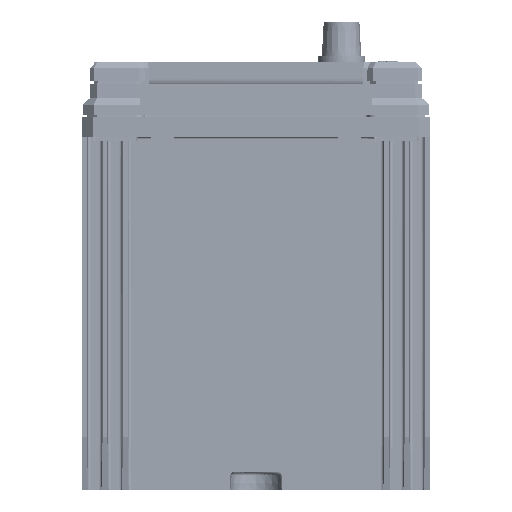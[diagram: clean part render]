
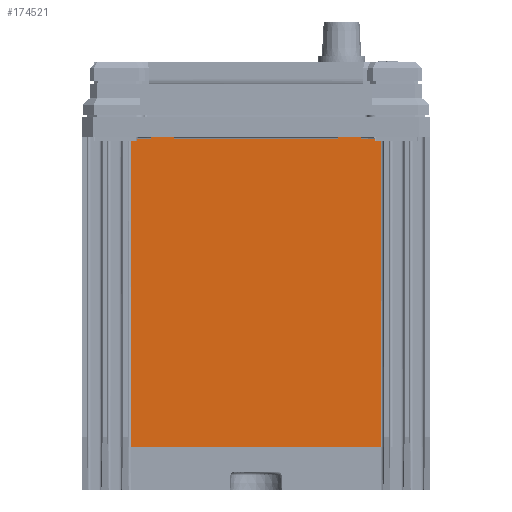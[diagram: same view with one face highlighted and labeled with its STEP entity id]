
A CAD part, left-side view. The second image highlights one B-rep face of the part: STEP entity #174521.
In plain terms, the highlighted planar face has unit normal (-1, 0, 0).
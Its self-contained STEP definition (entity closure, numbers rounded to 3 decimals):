
#170021=CARTESIAN_POINT('Line Origine',(-460.611,-196.31,16.05)) ;
#170025=CARTESIAN_POINT('Vertex',(-460.611,-201.81,16.05)) ;
#170027=CARTESIAN_POINT('Vertex',(-460.611,-190.81,16.05)) ;
#170831=CARTESIAN_POINT('Line Origine',(-460.611,-103.91,16.05)) ;
#170835=CARTESIAN_POINT('Vertex',(-460.611,-98.41,16.05)) ;
#170837=CARTESIAN_POINT('Vertex',(-460.611,-109.41,16.05)) ;
#174398=CARTESIAN_POINT('Axis2P3D Location',(-460.611,-146.11,-0.302)) ;
#174404=CARTESIAN_POINT('Control Point',(-460.611,-208.816,5.066)) ;
#174405=CARTESIAN_POINT('Control Point',(-460.611,-208.827,4.864)) ;
#174406=CARTESIAN_POINT('Control Point',(-460.611,-208.838,4.665)) ;
#174407=CARTESIAN_POINT('Control Point',(-460.611,-208.849,4.468)) ;
#174408=CARTESIAN_POINT('Control Point',(-460.611,-208.86,4.273)) ;
#174409=CARTESIAN_POINT('Control Point',(-460.611,-208.871,4.081)) ;
#174410=CARTESIAN_POINT('Vertex',(-460.611,-208.816,5.066)) ;
#174412=CARTESIAN_POINT('Vertex',(-460.611,-208.871,4.081)) ;
#174415=CARTESIAN_POINT('Line Origine',(-460.611,-205.313,5.066)) ;
#174419=CARTESIAN_POINT('Vertex',(-460.611,-201.81,5.066)) ;
#174422=CARTESIAN_POINT('Line Origine',(-460.611,-201.81,10.558)) ;
#174427=CARTESIAN_POINT('Line Origine',(-460.611,-190.81,10.558)) ;
#174431=CARTESIAN_POINT('Vertex',(-460.611,-190.81,5.066)) ;
#174434=CARTESIAN_POINT('Line Origine',(-460.611,-150.11,5.066)) ;
#174438=CARTESIAN_POINT('Vertex',(-460.611,-109.41,5.066)) ;
#174441=CARTESIAN_POINT('Line Origine',(-460.611,-109.41,10.558)) ;
#174446=CARTESIAN_POINT('Line Origine',(-460.611,-98.41,10.558)) ;
#174450=CARTESIAN_POINT('Vertex',(-460.611,-98.41,5.066)) ;
#174453=CARTESIAN_POINT('Line Origine',(-460.611,-94.907,5.066)) ;
#174457=CARTESIAN_POINT('Vertex',(-460.611,-91.403,5.066)) ;
#174461=CARTESIAN_POINT('Control Point',(-460.611,-91.403,5.066)) ;
#174462=CARTESIAN_POINT('Control Point',(-460.611,-91.392,4.864)) ;
#174463=CARTESIAN_POINT('Control Point',(-460.611,-91.382,4.665)) ;
#174464=CARTESIAN_POINT('Control Point',(-460.611,-91.371,4.468)) ;
#174465=CARTESIAN_POINT('Control Point',(-460.611,-91.36,4.273)) ;
#174466=CARTESIAN_POINT('Control Point',(-460.611,-91.349,4.081)) ;
#174467=CARTESIAN_POINT('Vertex',(-460.611,-91.349,4.081)) ;
#174470=CARTESIAN_POINT('Line Origine',(-460.611,-89.941,4.081)) ;
#174474=CARTESIAN_POINT('Vertex',(-460.611,-88.533,4.081)) ;
#174477=CARTESIAN_POINT('Line Origine',(-460.611,-88.533,-71.28)) ;
#174481=CARTESIAN_POINT('Vertex',(-460.611,-88.533,-146.641)) ;
#174484=CARTESIAN_POINT('Line Origine',(-460.611,-150.11,-146.641)) ;
#174488=CARTESIAN_POINT('Vertex',(-460.611,-211.686,-146.641)) ;
#174491=CARTESIAN_POINT('Line Origine',(-460.611,-211.686,-71.28)) ;
#174495=CARTESIAN_POINT('Vertex',(-460.611,-211.686,4.081)) ;
#174498=CARTESIAN_POINT('Line Origine',(-460.611,-210.279,4.081)) ;
#170022=DIRECTION('Vector Direction',(0.,1.,0.)) ;
#170832=DIRECTION('Vector Direction',(0.,-1.,0.)) ;
#174399=DIRECTION('Axis2P3D Direction',(1.,0.,0.)) ;
#174400=DIRECTION('Axis2P3D XDirection',(0.,0.,-1.)) ;
#174416=DIRECTION('Vector Direction',(0.,1.,0.)) ;
#174423=DIRECTION('Vector Direction',(0.,0.,1.)) ;
#174428=DIRECTION('Vector Direction',(0.,0.,1.)) ;
#174435=DIRECTION('Vector Direction',(0.,1.,0.)) ;
#174442=DIRECTION('Vector Direction',(0.,0.,1.)) ;
#174447=DIRECTION('Vector Direction',(0.,0.,1.)) ;
#174454=DIRECTION('Vector Direction',(0.,1.,0.)) ;
#174471=DIRECTION('Vector Direction',(0.,1.,0.)) ;
#174478=DIRECTION('Vector Direction',(0.,0.,-1.)) ;
#174485=DIRECTION('Vector Direction',(0.,1.,0.)) ;
#174492=DIRECTION('Vector Direction',(0.,0.,1.)) ;
#174499=DIRECTION('Vector Direction',(0.,-1.,0.)) ;
#174401=AXIS2_PLACEMENT_3D('Plane Axis2P3D',#174398,#174399,#174400) ;
#174504=ORIENTED_EDGE('',*,*,#174414,.F.) ;
#174505=ORIENTED_EDGE('',*,*,#174421,.T.) ;
#174506=ORIENTED_EDGE('',*,*,#174426,.T.) ;
#174507=ORIENTED_EDGE('',*,*,#170029,.T.) ;
#174508=ORIENTED_EDGE('',*,*,#174433,.F.) ;
#174509=ORIENTED_EDGE('',*,*,#174440,.T.) ;
#174510=ORIENTED_EDGE('',*,*,#174445,.T.) ;
#174511=ORIENTED_EDGE('',*,*,#170839,.F.) ;
#174512=ORIENTED_EDGE('',*,*,#174452,.F.) ;
#174513=ORIENTED_EDGE('',*,*,#174459,.T.) ;
#174514=ORIENTED_EDGE('',*,*,#174469,.T.) ;
#174515=ORIENTED_EDGE('',*,*,#174476,.T.) ;
#174516=ORIENTED_EDGE('',*,*,#174483,.T.) ;
#174517=ORIENTED_EDGE('',*,*,#174490,.F.) ;
#174518=ORIENTED_EDGE('',*,*,#174497,.T.) ;
#174519=ORIENTED_EDGE('',*,*,#174502,.F.) ;
#170023=VECTOR('Line Direction',#170022,1.) ;
#170833=VECTOR('Line Direction',#170832,1.) ;
#174417=VECTOR('Line Direction',#174416,1.) ;
#174424=VECTOR('Line Direction',#174423,1.) ;
#174429=VECTOR('Line Direction',#174428,1.) ;
#174436=VECTOR('Line Direction',#174435,1.) ;
#174443=VECTOR('Line Direction',#174442,1.) ;
#174448=VECTOR('Line Direction',#174447,1.) ;
#174455=VECTOR('Line Direction',#174454,1.) ;
#174472=VECTOR('Line Direction',#174471,1.) ;
#174479=VECTOR('Line Direction',#174478,1.) ;
#174486=VECTOR('Line Direction',#174485,1.) ;
#174493=VECTOR('Line Direction',#174492,1.) ;
#174500=VECTOR('Line Direction',#174499,1.) ;
#174521=ADVANCED_FACE('MANIFOLD_SOLID_BREP #43509',(#174520),#174402,.F.) ;
#174403=B_SPLINE_CURVE_WITH_KNOTS('',5,(#174404,#174405,#174406,#174407,#174408,#174409),.UNSPECIFIED.,.F.,.U.,(6,6),(0.,2.55),.UNSPECIFIED.) ;
#174460=B_SPLINE_CURVE_WITH_KNOTS('',5,(#174461,#174462,#174463,#174464,#174465,#174466),.UNSPECIFIED.,.F.,.U.,(6,6),(0.,2.55),.UNSPECIFIED.) ;
#170029=EDGE_CURVE('',#170026,#170028,#170024,.T.) ;
#170839=EDGE_CURVE('',#170836,#170838,#170834,.T.) ;
#174414=EDGE_CURVE('',#174411,#174413,#174403,.T.) ;
#174421=EDGE_CURVE('',#174411,#174420,#174418,.T.) ;
#174426=EDGE_CURVE('',#174420,#170026,#174425,.T.) ;
#174433=EDGE_CURVE('',#174432,#170028,#174430,.T.) ;
#174440=EDGE_CURVE('',#174432,#174439,#174437,.T.) ;
#174445=EDGE_CURVE('',#174439,#170838,#174444,.T.) ;
#174452=EDGE_CURVE('',#174451,#170836,#174449,.T.) ;
#174459=EDGE_CURVE('',#174451,#174458,#174456,.T.) ;
#174469=EDGE_CURVE('',#174458,#174468,#174460,.T.) ;
#174476=EDGE_CURVE('',#174468,#174475,#174473,.T.) ;
#174483=EDGE_CURVE('',#174475,#174482,#174480,.T.) ;
#174490=EDGE_CURVE('',#174489,#174482,#174487,.T.) ;
#174497=EDGE_CURVE('',#174489,#174496,#174494,.T.) ;
#174502=EDGE_CURVE('',#174413,#174496,#174501,.T.) ;
#174503=EDGE_LOOP('',(#174504,#174505,#174506,#174507,#174508,#174509,#174510,#174511,#174512,#174513,#174514,#174515,#174516,#174517,#174518,#174519)) ;
#174520=FACE_OUTER_BOUND('',#174503,.T.) ;
#170024=LINE('Line',#170021,#170023) ;
#170834=LINE('Line',#170831,#170833) ;
#174418=LINE('Line',#174415,#174417) ;
#174425=LINE('Line',#174422,#174424) ;
#174430=LINE('Line',#174427,#174429) ;
#174437=LINE('Line',#174434,#174436) ;
#174444=LINE('Line',#174441,#174443) ;
#174449=LINE('Line',#174446,#174448) ;
#174456=LINE('Line',#174453,#174455) ;
#174473=LINE('Line',#174470,#174472) ;
#174480=LINE('Line',#174477,#174479) ;
#174487=LINE('Line',#174484,#174486) ;
#174494=LINE('Line',#174491,#174493) ;
#174501=LINE('Line',#174498,#174500) ;
#174402=PLANE('',#174401) ;
#170026=VERTEX_POINT('',#170025) ;
#170028=VERTEX_POINT('',#170027) ;
#170836=VERTEX_POINT('',#170835) ;
#170838=VERTEX_POINT('',#170837) ;
#174411=VERTEX_POINT('',#174410) ;
#174413=VERTEX_POINT('',#174412) ;
#174420=VERTEX_POINT('',#174419) ;
#174432=VERTEX_POINT('',#174431) ;
#174439=VERTEX_POINT('',#174438) ;
#174451=VERTEX_POINT('',#174450) ;
#174458=VERTEX_POINT('',#174457) ;
#174468=VERTEX_POINT('',#174467) ;
#174475=VERTEX_POINT('',#174474) ;
#174482=VERTEX_POINT('',#174481) ;
#174489=VERTEX_POINT('',#174488) ;
#174496=VERTEX_POINT('',#174495) ;
